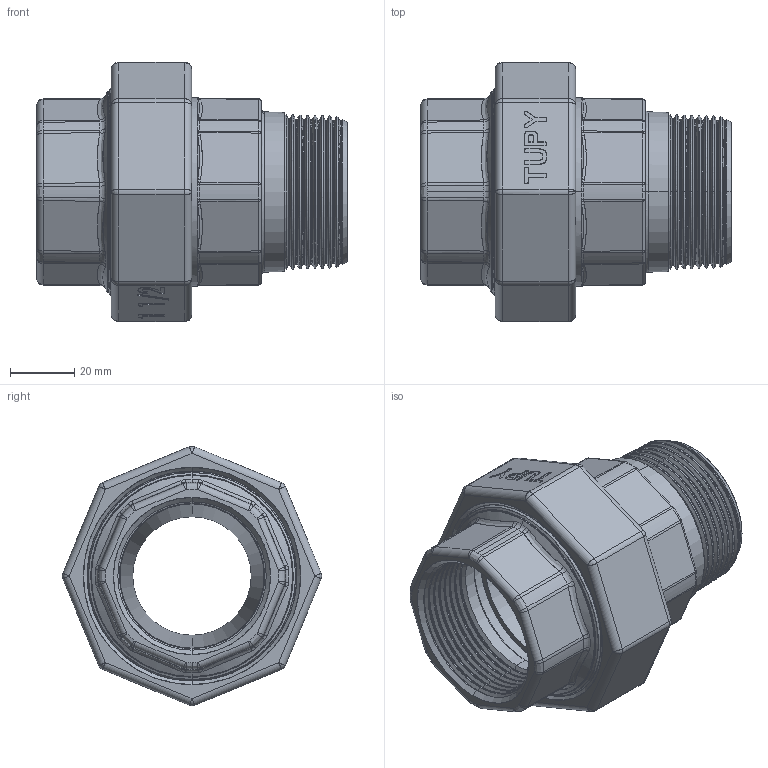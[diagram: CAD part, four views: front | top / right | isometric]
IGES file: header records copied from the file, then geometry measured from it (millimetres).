
Start section: SolidWorks IGES file using analytic representation for surfaces
Global section: file name: C:\Users\Joel Rosa\Desktop\Tubulação\12-65-X\12-65-009.IGS; native system: SolidWorks 2011; preprocessor: SolidWorks 2011; author: Joel Rosa; date: 130721.182747; units: millimetre
Bounding box: 96.75 x 80.8 x 80.81 mm (x, y, z)
Surface area: 58124.5 mm2 (no closed solid volume)
Topology: 0 solids, 0 shells, 698 faces, 5324 edges, 5318 vertices
Faces by surface type: bspline 463, revolution 235
